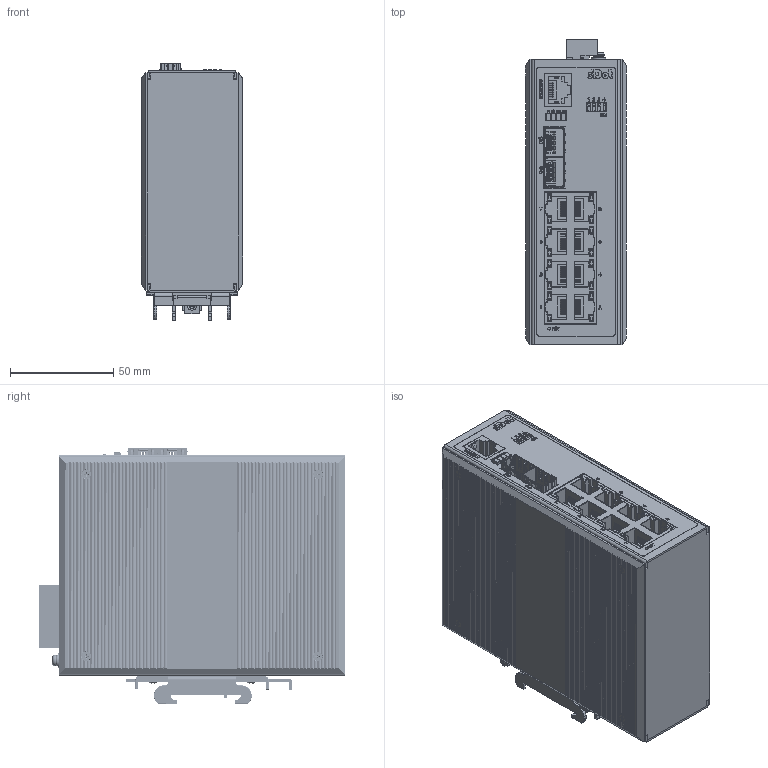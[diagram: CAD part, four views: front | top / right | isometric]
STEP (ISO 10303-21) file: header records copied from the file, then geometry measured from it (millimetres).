
FILE_DESCRIPTION(/* description */ (''),/* implementation_level */ '2;1');
FILE_NAME(/* name */ 'FR-7M3208L_STEP.stp',/* time_stamp */ '2026-06-09T10:54:57+08:00',/* author */ ('laozh'),/* organization */ (''),/* preprocessor_version */ 'ST-DEVELOPER v20.1',/* originating_system */ 'Autodesk Inventor 2026',/* authorisation */ '');
FILE_SCHEMA (('AUTOMOTIVE_DESIGN { 1 0 10303 214 3 1 1 }'));
Products named in the file (1): FR-7M3208L_简化_1
Bounding box: 49 x 147.89 x 124.2 mm (x, y, z)
Volume: 172175.5 mm3; surface area: 150081.3 mm2
Topology: 1 solids, 1 shells, 7549 faces, 21569 edges, 13839 vertices
Faces by surface type: plane 5136, cylinder 1567, bspline 474, cone 211, torus 111, sphere 50
Full cylindrical faces by diameter (mm): 1 x6, 1.3 x2, 1.4 x1, 2 x43, 2.4 x11, 2.5 x14, 2.693 x8, 3 x28, 3.4 x1, 3.5 x18, 4 x3, 4.5 x10, 5.3 x1, 6.5 x2, 7 x1
Entity records: 270420 total; most frequent: CARTESIAN_POINT 65410, ORIENTED_EDGE 43074, DIRECTION 38482, EDGE_CURVE 21537, LINE 16468, VECTOR 16468, VERTEX_POINT 13839, AXIS2_PLACEMENT_3D 11007
